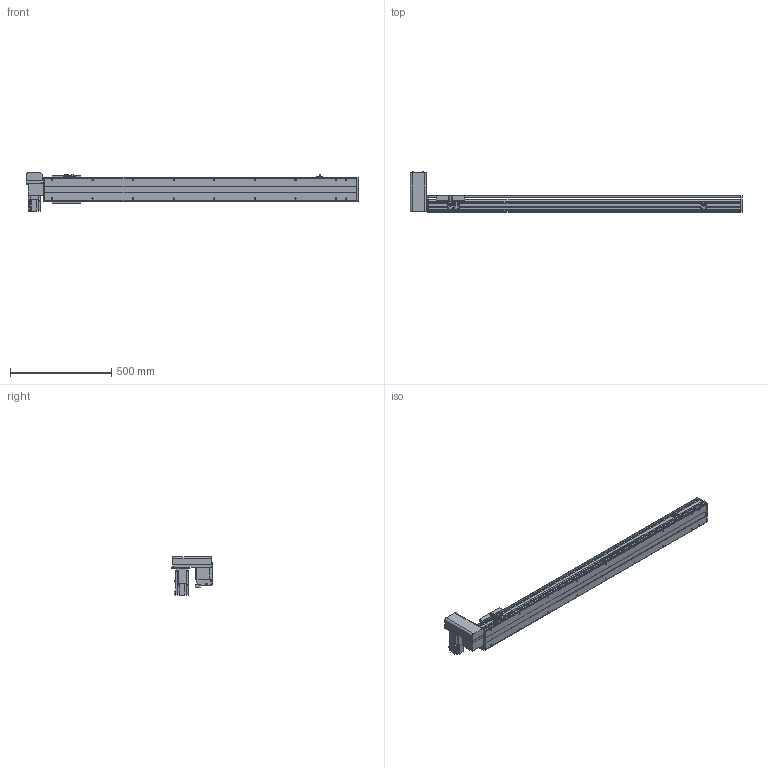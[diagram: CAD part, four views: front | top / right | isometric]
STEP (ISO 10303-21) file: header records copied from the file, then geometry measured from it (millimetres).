
FILE_DESCRIPTION(/* description */ ('STEP AP214'),/* implementation_level */ '2;1');
FILE_NAME(/* name */ 'PBS120-P40-S1250-RU-T40-C1-N(0)',/* time_stamp */ '2022-06-06T02:49:50+02:00',/* author */ ('License CC BY-ND 4.0'),/* organization */ ('CADENAS'),/* preprocessor_version */ 'ST-DEVELOPER v18.102',/* originating_system */ 'PARTsolutions',/* authorisation */ ' ');
FILE_SCHEMA (('AUTOMOTIVE_DESIGN {1 0 10303 214 3 1 1}'));
Length unit declared in the file: millimetre
Products named in the file (7): PBS120-P40-S1250-RU-T40-C1-N(0); PBS120_sensor; PBS120_plant; PBS120_sliser; T40-p1; PBS120T-RU_motors; PBS120-S1250()_body
Assembly tree (8 placements, depth 2):
  PBS120-P40-S1250-RU-T40-C1-N(0)
    PBS120_sensor  x3
    PBS120_plant
    PBS120_sliser
    T40-p1
    PBS120T-RU_motors
    PBS120-S1250()_body
Bounding box: 1636 x 198 x 189.7 mm (x, y, z)
Volume: 6774822.7 mm3; surface area: 1343444.3 mm2
Topology: 8 solids, 8 shells, 834 faces, 2166 edges, 1393 vertices
Faces by surface type: plane 551, cylinder 231, cone 50, torus 2
Full cylindrical faces by diameter (mm): 2.459 x6, 3.242 x4, 4 x2, 4.134 x4, 4.5 x10, 4.917 x22, 5.5 x11, 6 x2, 6.6 x1, 7 x2, 8.5 x4, 9 x4, 12 x1, 14 x1, 30 x2, 40 x1, 50 x2
Entity records: 21714 total; most frequent: DIRECTION 3764, CARTESIAN_POINT 3695, ORIENTED_EDGE 3514, EDGE_CURVE 1757, AXIS2_PLACEMENT_3D 1268, LINE 1228, VECTOR 1228, VERTEX_POINT 1199
